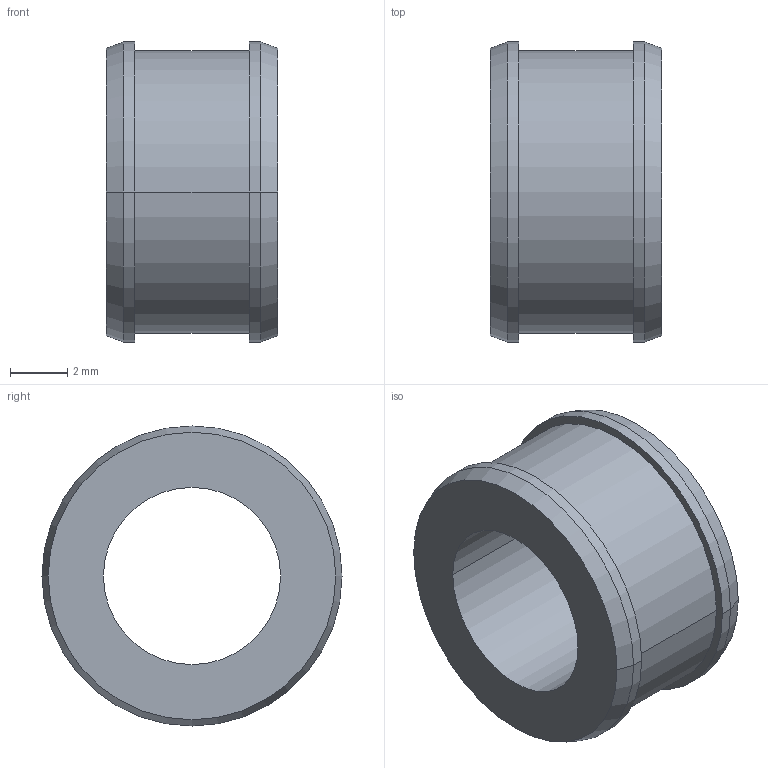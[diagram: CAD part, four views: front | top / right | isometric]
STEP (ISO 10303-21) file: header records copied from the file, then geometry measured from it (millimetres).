
FILE_DESCRIPTION((''),'2;1');
FILE_NAME('0000237158_PRT','2025-11-12T18:34:12',('Wyndorps'),(''),'CREO PARAMETRIC BY PTC INC, 2025010','CREO PARAMETRIC BY PTC INC, 2025010','');
FILE_SCHEMA(('CONFIG_CONTROL_DESIGN'));
Length unit declared in the file: millimetre
Products named in the file (1): 0000237158_PRT
Bounding box: 6 x 10.5 x 10.5 mm (x, y, z)
Volume: 295.7 mm3; surface area: 426.8 mm2
Topology: 1 solids, 1 shells, 16 faces, 32 edges, 20 vertices
Faces by surface type: cylinder 8, plane 4, cone 4
Entity records: 466 total; most frequent: DIRECTION 84, CARTESIAN_POINT 68, ORIENTED_EDGE 64, AXIS2_PLACEMENT_3D 36, EDGE_CURVE 32, VERTEX_POINT 20, EDGE_LOOP 20, CIRCLE 20
